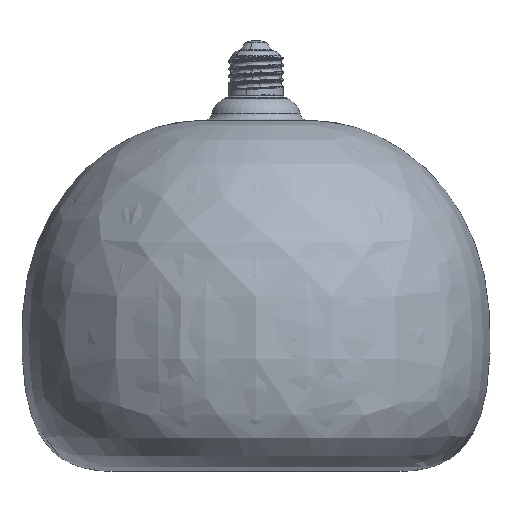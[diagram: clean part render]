
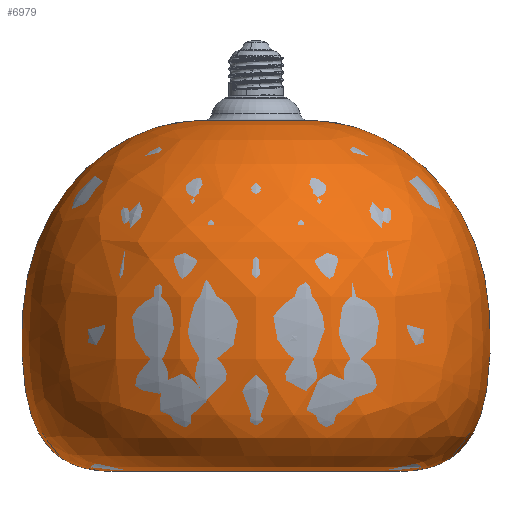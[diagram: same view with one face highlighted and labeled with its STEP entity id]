
A CAD part, front view. The second image highlights one B-rep face of the part: STEP entity #6979.
In plain terms, the highlighted free-form (B-spline) face has degree [3, 3] with [6, 4] control points.
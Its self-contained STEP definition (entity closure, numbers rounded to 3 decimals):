
#203 = CARTESIAN_POINT ( 'NONE',  ( 1630.733, 0., 9.977 ) ) ;
#1656 = CARTESIAN_POINT ( 'NONE',  ( 1469.166, 0., -156.886 ) ) ;
#4095 = CARTESIAN_POINT ( 'NONE',  ( 1640.049, -138., -156.886 ) ) ;
#6979 = ADVANCED_FACE ( 'NONE', ( #63013 ), #39560, .T. ) ;
#7594 = ORIENTED_EDGE ( 'NONE', *, *, #42400, .T. ) ;
#7971 = CARTESIAN_POINT ( 'NONE',  ( 1597.733, 0., 9.977 ) ) ;
#8265 = B_SPLINE_CURVE_WITH_KNOTS ( 'NONE', 3,
 ( #54572, #203, #34536, #29016, #19316, #49062 ),
 .UNSPECIFIED., .F., .F.,
 ( 4, 1, 1, 4 ),
 ( 0., 0.6, 0.7, 1. ),
 .UNSPECIFIED. ) ;
#8619 = CARTESIAN_POINT ( 'NONE',  ( 1630.733, 0., 9.977 ) ) ;
#10548 = B_SPLINE_CURVE_WITH_KNOTS ( 'NONE', 3,
 ( #15902, #60240, #41148, #30490, #1656, #16214 ),
 .UNSPECIFIED., .F., .F.,
 ( 4, 1, 1, 4 ),
 ( 0., 0.6, 0.7, 1. ),
 .UNSPECIFIED. ) ;
#13160 = CARTESIAN_POINT ( 'NONE',  ( 1469.166, -203.765, -156.886 ) ) ;
#15902 = CARTESIAN_POINT ( 'NONE',  ( 1544.364, 0., 9.977 ) ) ;
#16214 = CARTESIAN_POINT ( 'NONE',  ( 1502.049, 0., -156.886 ) ) ;
#17706 = CARTESIAN_POINT ( 'NONE',  ( 1460.729, 0., -21.138 ) ) ;
#19316 = CARTESIAN_POINT ( 'NONE',  ( 1672.931, 0., -156.886 ) ) ;
#22577 = CARTESIAN_POINT ( 'NONE',  ( 1597.733, -53.369, 9.977 ) ) ;
#22899 = CARTESIAN_POINT ( 'NONE',  ( 1458.692, -224.714, -124.592 ) ) ;
#23454 = EDGE_CURVE ( 'NONE', #46180, #39616, #8265, .T. ) ;
#23873 = CARTESIAN_POINT ( 'NONE',  ( 1672.931, 0., -156.886 ) ) ;
#25147 = CARTESIAN_POINT ( 'NONE',  ( 1502.049, -138., -156.886 ) ) ;
#26102 = CIRCLE ( 'NONE', #53991, 26.685 ) ;
#27740 = CARTESIAN_POINT ( 'NONE',  ( 1458.692, 0., -124.592 ) ) ;
#28195 = CARTESIAN_POINT ( 'NONE',  ( 1502.049, 0., -156.886 ) ) ;
#28386 = CARTESIAN_POINT ( 'NONE',  ( 1460.729, -220.639, -21.138 ) ) ;
#28797 = CARTESIAN_POINT ( 'NONE',  ( 1571.049, 0., 9.977 ) ) ;
#29016 = CARTESIAN_POINT ( 'NONE',  ( 1683.406, 0., -124.592 ) ) ;
#30490 = CARTESIAN_POINT ( 'NONE',  ( 1458.692, 0., -124.592 ) ) ;
#31287 = EDGE_LOOP ( 'NONE', ( #57452, #40149, #7594, #40353 ) ) ;
#31544 = AXIS2_PLACEMENT_3D ( 'NONE', #43432, #63178, #48919 ) ;
#32928 = CARTESIAN_POINT ( 'NONE',  ( 1672.931, -203.765, -156.886 ) ) ;
#33361 = EDGE_CURVE ( 'NONE', #49020, #40219, #10548, .T. ) ;
#34228 = CARTESIAN_POINT ( 'NONE',  ( 1640.049, 0., -156.886 ) ) ;
#34536 = CARTESIAN_POINT ( 'NONE',  ( 1681.368, 0., -21.138 ) ) ;
#36459 = CARTESIAN_POINT ( 'NONE',  ( 1597.733, 0., 9.977 ) ) ;
#37452 = CARTESIAN_POINT ( 'NONE',  ( 1681.368, -220.639, -21.138 ) ) ;
#37782 = CARTESIAN_POINT ( 'NONE',  ( 1683.406, 0., -124.592 ) ) ;
#38416 = CARTESIAN_POINT ( 'NONE',  ( 1511.364, -119.369, 9.977 ) ) ;
#39560 =( BOUNDED_SURFACE ( )  B_SPLINE_SURFACE ( 3, 3, ( 
 ( #52959, #47143, #22577, #7971 ),
 ( #52640, #38416, #61721, #8619 ),
 ( #17706, #28386, #37452, #57181 ),
 ( #27740, #22899, #62364, #37782 ),
 ( #57506, #13160, #32928, #23873 ),
 ( #43587, #25147, #4095, #34228 ) ),
 .UNSPECIFIED., .F., .F., .T. ) 
 B_SPLINE_SURFACE_WITH_KNOTS ( ( 4, 1, 1, 4 ),
 ( 4, 4 ),
 ( 0., 0.6, 0.7, 1. ),
 ( 0., 1. ),
 .UNSPECIFIED. ) 
 GEOMETRIC_REPRESENTATION_ITEM ( )  RATIONAL_B_SPLINE_SURFACE ( (
 ( 1., 0.333, 0.333, 1.),
 ( 1., 0.333, 0.333, 1.),
 ( 1., 0.333, 0.333, 1.),
 ( 1., 0.333, 0.333, 1.),
 ( 1., 0.333, 0.333, 1.),
 ( 1., 0.333, 0.333, 1.) ) ) 
 REPRESENTATION_ITEM ( '' )  SURFACE ( )  );
#39616 = VERTEX_POINT ( 'NONE', #46022 ) ;
#40149 = ORIENTED_EDGE ( 'NONE', *, *, #33361, .T. ) ;
#40219 = VERTEX_POINT ( 'NONE', #28195 ) ;
#40353 = ORIENTED_EDGE ( 'NONE', *, *, #23454, .F. ) ;
#41148 = CARTESIAN_POINT ( 'NONE',  ( 1460.729, 0., -21.138 ) ) ;
#42400 = EDGE_CURVE ( 'NONE', #40219, #39616, #49136, .T. ) ;
#43432 = CARTESIAN_POINT ( 'NONE',  ( 1571.049, 0., -156.886 ) ) ;
#43587 = CARTESIAN_POINT ( 'NONE',  ( 1502.049, 0., -156.886 ) ) ;
#46022 = CARTESIAN_POINT ( 'NONE',  ( 1640.049, 0., -156.886 ) ) ;
#46180 = VERTEX_POINT ( 'NONE', #36459 ) ;
#47143 = CARTESIAN_POINT ( 'NONE',  ( 1544.364, -53.369, 9.977 ) ) ;
#48919 = DIRECTION ( 'NONE',  ( 1., 0., 0. ) ) ;
#49020 = VERTEX_POINT ( 'NONE', #55967 ) ;
#49062 = CARTESIAN_POINT ( 'NONE',  ( 1640.049, 0., -156.886 ) ) ;
#49136 = CIRCLE ( 'NONE', #31544, 69. ) ;
#49944 = EDGE_CURVE ( 'NONE', #49020, #46180, #26102, .T. ) ;
#52640 = CARTESIAN_POINT ( 'NONE',  ( 1511.364, 0., 9.977 ) ) ;
#52959 = CARTESIAN_POINT ( 'NONE',  ( 1544.364, 0., 9.977 ) ) ;
#53371 = DIRECTION ( 'NONE',  ( 1., 0., 0. ) ) ;
#53991 = AXIS2_PLACEMENT_3D ( 'NONE', #28797, #58217, #53371 ) ;
#54572 = CARTESIAN_POINT ( 'NONE',  ( 1597.733, 0., 9.977 ) ) ;
#55967 = CARTESIAN_POINT ( 'NONE',  ( 1544.364, 0., 9.977 ) ) ;
#57181 = CARTESIAN_POINT ( 'NONE',  ( 1681.368, 0., -21.138 ) ) ;
#57452 = ORIENTED_EDGE ( 'NONE', *, *, #49944, .F. ) ;
#57506 = CARTESIAN_POINT ( 'NONE',  ( 1469.166, 0., -156.886 ) ) ;
#58217 = DIRECTION ( 'NONE',  ( 0., 0., 1. ) ) ;
#60240 = CARTESIAN_POINT ( 'NONE',  ( 1511.364, 0., 9.977 ) ) ;
#61721 = CARTESIAN_POINT ( 'NONE',  ( 1630.733, -119.369, 9.977 ) ) ;
#62364 = CARTESIAN_POINT ( 'NONE',  ( 1683.406, -224.714, -124.592 ) ) ;
#63013 = FACE_OUTER_BOUND ( 'NONE', #31287, .T. ) ;
#63178 = DIRECTION ( 'NONE',  ( 0., 0., 1. ) ) ;
